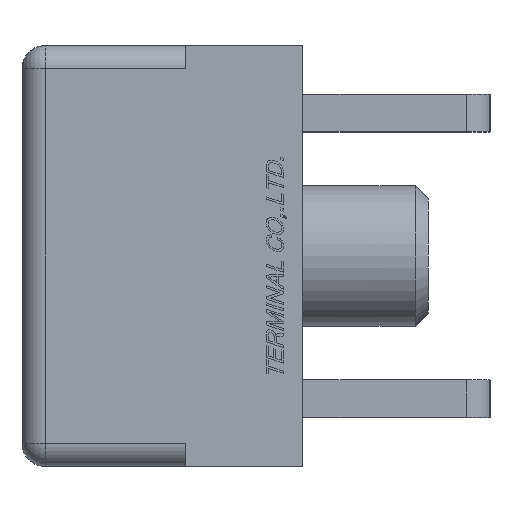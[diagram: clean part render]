
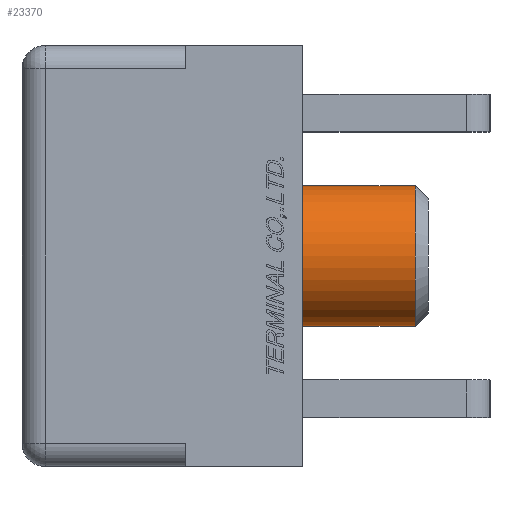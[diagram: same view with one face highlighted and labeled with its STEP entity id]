
A CAD part, left-side view. The second image highlights one B-rep face of the part: STEP entity #23370.
In plain terms, the highlighted cylindrical face has radius 1.5 mm (diameter 3 mm), a full revolution.
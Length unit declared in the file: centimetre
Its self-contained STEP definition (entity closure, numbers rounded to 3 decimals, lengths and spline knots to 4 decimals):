
#7231=VERTEX_POINT('',#29381);
#7232=VERTEX_POINT('',#29383);
#9551=CIRCLE('',#38941,0.15);
#9552=CIRCLE('',#38942,0.15);
#9841=EDGE_CURVE('',#7231,#7231,#9551,.T.);
#9842=EDGE_CURVE('',#7232,#7232,#9552,.T.);
#13381=ORIENTED_EDGE('',*,*,#9842,.F.);
#13382=ORIENTED_EDGE('',*,*,#9841,.F.);
#20358=EDGE_LOOP('',(#13381));
#20359=EDGE_LOOP('',(#13382));
#21865=FACE_BOUND('',#20358,.T.);
#21866=FACE_BOUND('',#20359,.T.);
#23370=ADVANCED_FACE('',(#21865,#21866),#24744,.T.);
#24744=CYLINDRICAL_SURFACE('',#38936,0.15);
#24970=DIRECTION('',(0.,-1.,0.));
#24971=DIRECTION('',(0.15,0.,0.));
#24980=DIRECTION('',(0.,-1.,0.));
#24981=DIRECTION('',(-0.15,0.,0.));
#24982=DIRECTION('',(0.,1.,0.));
#24983=DIRECTION('',(0.15,0.,-0.001));
#29372=CARTESIAN_POINT('',(-0.31,0.3321,0.));
#29380=CARTESIAN_POINT('',(-0.31,-0.2398,0.));
#29381=CARTESIAN_POINT('',(-0.16,-0.2398,0.));
#29382=CARTESIAN_POINT('',(-0.31,0.25,0.));
#29383=CARTESIAN_POINT('',(-0.16,0.25,-0.001));
#38936=AXIS2_PLACEMENT_3D('',#29372,#24970,#24971);
#38941=AXIS2_PLACEMENT_3D('',#29380,#24980,#24981);
#38942=AXIS2_PLACEMENT_3D('',#29382,#24982,#24983);
